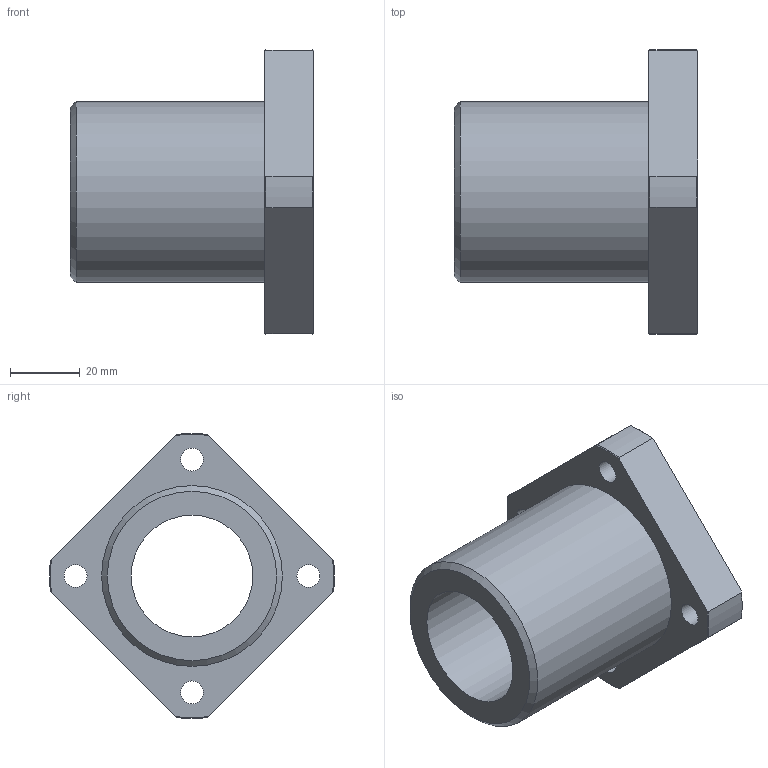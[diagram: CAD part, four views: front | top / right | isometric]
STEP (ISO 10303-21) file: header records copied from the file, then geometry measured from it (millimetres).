
FILE_DESCRIPTION(('STEP AP203'),'1');
FILE_NAME('//192.168.1.1/share/s-4 技術開発/s-4-4_CAD/s-4-4-3_見直し済み/PBC LINEAR修正済み/3D途中/SFPJ/SFPJ/SFPJ35.step','2022-03-24T05:49:50',(' '),(' '),'Spatial InterOp 3D',' ',' ');
FILE_SCHEMA(('CONFIG_CONTROL_DESIGN'));
Length unit declared in the file: millimetre
Products named in the file (1): 1
Bounding box: 70 x 81.94 x 81.94 mm (x, y, z)
Volume: 104252.3 mm3; surface area: 27390.8 mm2
Topology: 1 solids, 1 shells, 34 faces, 85 edges, 58 vertices
Faces by surface type: cylinder 14, plane 11, cone 9
Full cylindrical faces by diameter (mm): 6.6 x4, 11 x4, 35 x1, 52 x1
Entity records: 1018 total; most frequent: CARTESIAN_POINT 205, DIRECTION 160, ORIENTED_EDGE 138, AXIS2_PLACEMENT_3D 72, EDGE_CURVE 69, EDGE_LOOP 60, VERTEX_POINT 53, FACE_OUTER_BOUND 44
